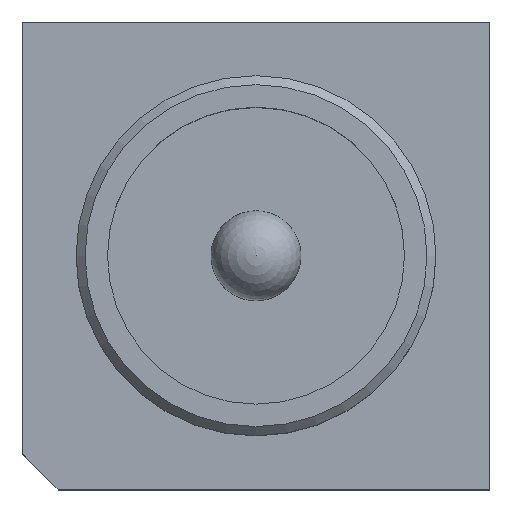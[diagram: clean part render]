
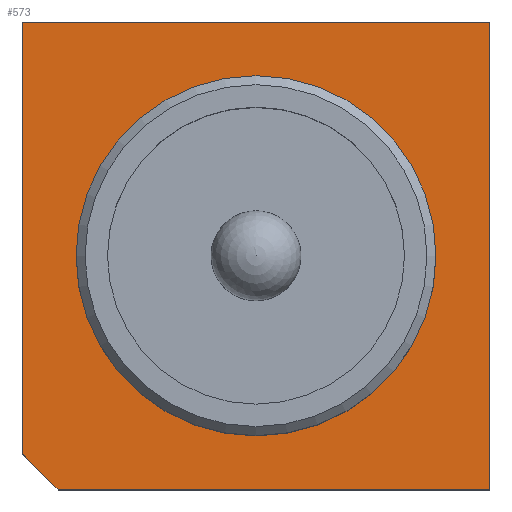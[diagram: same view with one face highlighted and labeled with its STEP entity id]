
A CAD part, top view. The second image highlights one B-rep face of the part: STEP entity #573.
In plain terms, the highlighted planar face has unit normal (0, 0, 1).
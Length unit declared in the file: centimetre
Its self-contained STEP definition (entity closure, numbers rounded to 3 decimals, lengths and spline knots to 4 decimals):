
#37=CIRCLE('',#686,0.1);
#140=ORIENTED_EDGE('',*,*,#252,.F.);
#141=ORIENTED_EDGE('',*,*,#255,.T.);
#142=ORIENTED_EDGE('',*,*,#249,.T.);
#143=ORIENTED_EDGE('',*,*,#256,.T.);
#144=ORIENTED_EDGE('',*,*,#244,.T.);
#145=ORIENTED_EDGE('',*,*,#257,.T.);
#244=EDGE_CURVE('',#304,#303,#367,.T.);
#249=EDGE_CURVE('',#308,#307,#372,.T.);
#252=EDGE_CURVE('',#310,#303,#375,.T.);
#255=EDGE_CURVE('',#310,#308,#378,.T.);
#256=EDGE_CURVE('',#307,#304,#379,.T.);
#257=EDGE_CURVE('',#312,#312,#37,.T.);
#303=VERTEX_POINT('',#969);
#304=VERTEX_POINT('',#971);
#307=VERTEX_POINT('',#979);
#308=VERTEX_POINT('',#981);
#310=VERTEX_POINT('',#987);
#312=VERTEX_POINT('',#995);
#367=LINE('',#970,#426);
#372=LINE('',#980,#431);
#375=LINE('',#986,#434);
#378=LINE('',#992,#437);
#379=LINE('',#993,#438);
#426=VECTOR('',#799,100.);
#431=VECTOR('',#806,100.);
#434=VECTOR('',#811,100.);
#437=VECTOR('',#816,100.);
#438=VECTOR('',#817,100.);
#460=EDGE_LOOP('',(#140,#141,#142,#143,#144));
#461=EDGE_LOOP('',(#145));
#505=FACE_BOUND('',#460,.T.);
#506=FACE_BOUND('',#461,.T.);
#548=PLANE('',#685);
#573=ADVANCED_FACE('',(#505,#506),#548,.T.);
#685=AXIS2_PLACEMENT_3D('',#991,#814,#815);
#686=AXIS2_PLACEMENT_3D('',#994,#818,#819);
#799=DIRECTION('',(0.,-1.,0.));
#806=DIRECTION('',(0.,1.,0.));
#811=DIRECTION('',(-0.707,0.707,0.));
#814=DIRECTION('',(0.,0.,1.));
#815=DIRECTION('',(0.,-1.,0.));
#816=DIRECTION('',(1.,0.,0.));
#817=DIRECTION('',(-1.,0.,0.));
#818=DIRECTION('',(0.,0.,-1.));
#819=DIRECTION('',(-1.,0.,0.));
#969=CARTESIAN_POINT('',(-0.1533,0.4308,0.2104));
#970=CARTESIAN_POINT('',(-0.1533,0.6708,0.2104));
#971=CARTESIAN_POINT('',(-0.1533,0.6708,0.2104));
#979=CARTESIAN_POINT('',(0.1067,0.6708,0.2104));
#980=CARTESIAN_POINT('',(0.1067,0.4108,0.2104));
#981=CARTESIAN_POINT('',(0.1067,0.4108,0.2104));
#986=CARTESIAN_POINT('',(-0.1433,0.4208,0.2104));
#987=CARTESIAN_POINT('',(-0.1333,0.4108,0.2104));
#991=CARTESIAN_POINT('',(-0.0233,0.5408,0.2104));
#992=CARTESIAN_POINT('',(-0.1533,0.4108,0.2104));
#993=CARTESIAN_POINT('',(0.1067,0.6708,0.2104));
#994=CARTESIAN_POINT('',(-0.0233,0.5408,0.2104));
#995=CARTESIAN_POINT('',(-0.1233,0.5408,0.2104));
